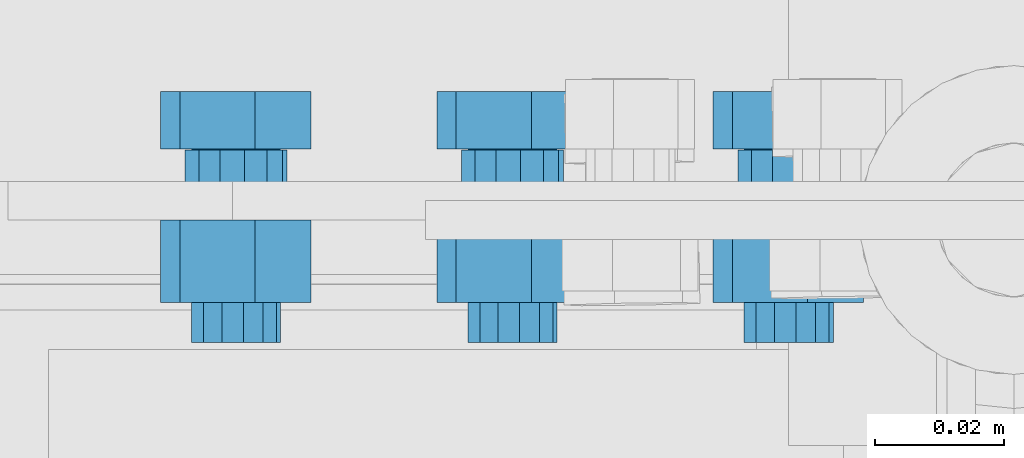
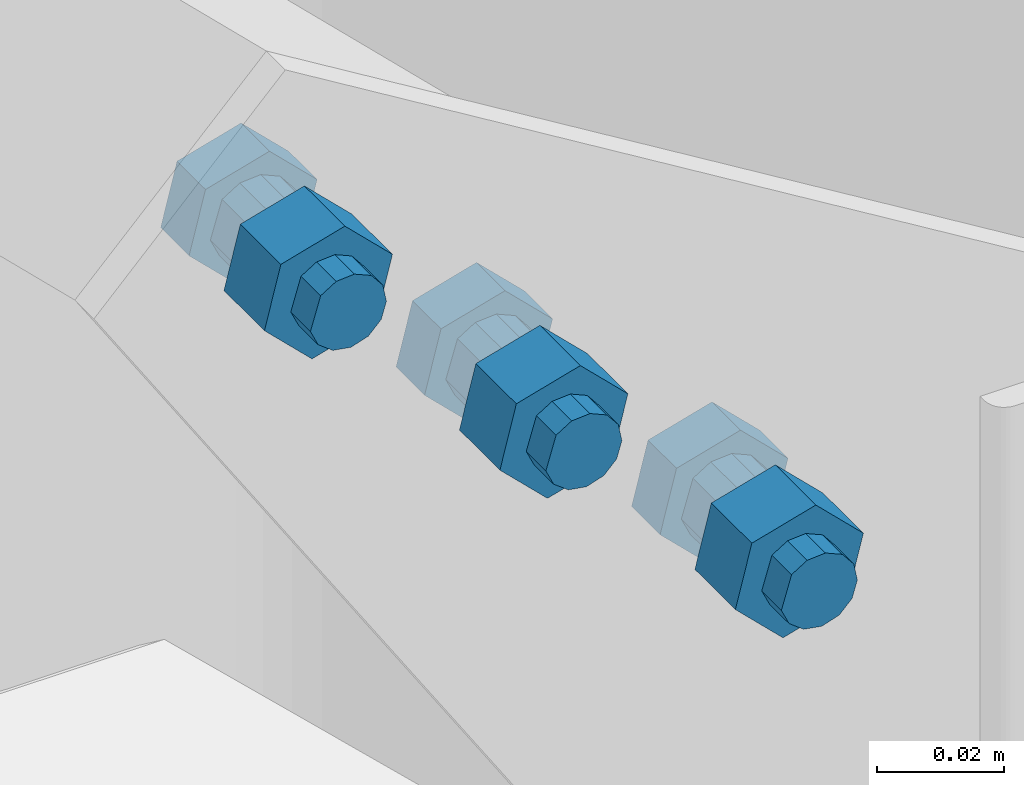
# One storey, part 14 of 18: 1 mechanical fastener.
"""IFC2X3 building model written with IfcOpenShell, lengths in millimetres."""

from ifc_helpers import new_model, si_unit, frame, origin_with_axes, place, context, subcontext, project, spatial, faceted_brep, source, transform, mapped, type_object, element, save


model = new_model("IFC2X3")

# Units and contexts
model_context = context("Model", 3, precision=1e-05, world=origin_with_axes())
body_context = subcontext(model_context, "Body", "Model", "MODEL_VIEW")
ifc_project = project(units=[si_unit("LENGTHUNIT", "METRE", prefix="MILLI"), si_unit("AREAUNIT", "SQUARE_METRE"), si_unit("VOLUMEUNIT", "CUBIC_METRE"), si_unit("MASSUNIT", "GRAM", prefix="KILO"), si_unit("TIMEUNIT", "SECOND"), si_unit("PLANEANGLEUNIT", "RADIAN"), si_unit("SOLIDANGLEUNIT", "STERADIAN"), si_unit("THERMODYNAMICTEMPERATUREUNIT", "DEGREE_CELSIUS"), si_unit("LUMINOUSINTENSITYUNIT", "LUMEN")], contexts=[model_context])

# Site, building, storey
site_placement = place(None, origin_with_axes())
site = spatial("IfcSite", under=ifc_project, at=site_placement, Name="Undefined", CompositionType="ELEMENT")
building_placement = place(site_placement, origin_with_axes())
building = spatial("IfcBuilding", under=site, at=building_placement, Name="Undefined", CompositionType="ELEMENT")
storey_placement = place(building_placement, origin_with_axes())
storey = spatial("IfcBuildingStorey", under=building, at=storey_placement, Name="Undefined", CompositionType="ELEMENT", Elevation=0.0)

# Mechanical fastener
mechanical_fastener_type = type_object("IfcMechanicalFastenerType", Name="Bolt assembly")
shared_shape_1 = source(origin_with_axes(), body_context, "Body", "Brep", [
    faceted_brep([(12.12435565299, 10.9970413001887, 0.0), (6.062177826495, 10.9970413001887, 10.5000000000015), (-6.062177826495, 10.9970413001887, 10.5000000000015), (-12.12435565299, 10.9970413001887, 0.0), (-6.062177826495, 10.9970413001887, -10.5000000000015), (6.062177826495, 10.9970413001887, -10.5000000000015), (6.062177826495, 19.9970413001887, -10.5000000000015), (-6.062177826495, 19.9970413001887, -10.5000000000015), (-12.12435565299, 19.9970413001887, 0.0), (-6.062177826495, 19.9970413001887, 10.5000000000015), (6.062177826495, 19.9970413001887, 10.5000000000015), (12.12435565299, 19.9970413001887, 0.0), (7.0, 19.9970413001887, 0.0), (6.19819217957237, 19.9970413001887, 3.25306220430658), (3.97645322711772, 19.9970413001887, 5.76088706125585), (0.843756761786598, 19.9970413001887, 6.94896211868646), (-2.48223420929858, 19.9970413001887, 6.54511369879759), (-5.23957523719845, 19.9970413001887, 4.64185860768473), (-6.79659272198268, 19.9970413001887, 1.67520965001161), (-6.79659272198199, 19.9970413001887, -1.67520965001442), (-5.23957523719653, 19.9970413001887, -4.6418586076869), (-2.48223420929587, 19.9970413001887, -6.54511369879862), (0.843756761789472, 19.9970413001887, -6.94896211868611), (3.97645322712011, 19.9970413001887, -5.7608870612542), (3.97645322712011, 49.9970413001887, -5.7608870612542), (0.843756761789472, 49.9970413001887, -6.94896211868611), (-2.48223420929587, 49.9970413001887, -6.54511369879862), (-5.23957523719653, 49.9970413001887, -4.6418586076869), (-6.79659272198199, 49.9970413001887, -1.67520965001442), (-6.79659272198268, 49.9970413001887, 1.67520965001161), (-5.23957523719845, 49.9970413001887, 4.64185860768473), (-2.48223420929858, 49.9970413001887, 6.54511369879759), (0.843756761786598, 49.9970413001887, 6.94896211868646), (3.97645322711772, 49.9970413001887, 5.76088706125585), (6.19819217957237, 49.9970413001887, 3.25306220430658), (7.0, 49.9970413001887, 0.0), (12.12435565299, 30.9974803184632, 0.0), (6.062177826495, 30.9974803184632, 10.5000000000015), (-6.062177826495, 30.9974803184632, 10.5000000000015), (-12.12435565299, 30.9974803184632, 0.0), (-6.062177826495, 30.9974803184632, -10.5000000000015), (6.062177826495, 30.9974803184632, -10.5000000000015), (6.062177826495, 43.797480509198, -10.5000000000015), (-6.062177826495, 43.797480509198, -10.5000000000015), (-12.12435565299, 43.797480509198, 0.0), (-6.062177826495, 43.797480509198, 10.5000000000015), (6.062177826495, 43.797480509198, 10.5000000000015), (12.12435565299, 43.797480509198, 0.0)], [[[0, 1, 2, 3, 4, 5]], [[6, 7, 8, 9, 10, 11]], [[0, 11, 10, 1]], [[1, 10, 9, 2]], [[2, 9, 8, 3]], [[3, 8, 7, 4]], [[4, 7, 6, 5]], [[5, 6, 11, 0]], [[12, 13, 14, 15, 16, 17, 18, 19, 20, 21, 22, 23]], [[24, 25, 26, 27, 28, 29, 30, 31, 32, 33, 34, 35]], [[12, 35, 34, 13]], [[13, 34, 33, 14]], [[14, 33, 32, 15]], [[15, 32, 31, 16]], [[16, 31, 30, 17]], [[17, 30, 29, 18]], [[18, 29, 28, 19]], [[19, 28, 27, 20]], [[20, 27, 26, 21]], [[21, 26, 25, 22]], [[22, 25, 24, 23]], [[23, 24, 35, 12]], [[36, 37, 38, 39, 40, 41]], [[42, 43, 44, 45, 46, 47]], [[36, 47, 46, 37]], [[37, 46, 45, 38]], [[38, 45, 44, 39]], [[39, 44, 43, 40]], [[40, 43, 42, 41]], [[41, 42, 47, 36]]]),
    faceted_brep([(8.0, 24.897480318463, 0.0), (7.08364820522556, 24.897480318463, 3.71778537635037), (4.54451797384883, 24.897480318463, 6.58387092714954), (0.964293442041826, 24.897480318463, 7.94167099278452), (-2.83683909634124, 24.897480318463, 7.48012994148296), (-5.98808598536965, 24.897480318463, 5.30498126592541), (-7.76753453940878, 24.897480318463, 1.91452531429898), (-7.76753453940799, 24.897480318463, -1.91452531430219), (-5.98808598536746, 24.897480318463, -5.30498126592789), (-2.83683909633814, 24.897480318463, -7.48012994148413), (0.964293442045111, 24.897480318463, -7.94167099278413), (4.54451797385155, 24.897480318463, -6.58387092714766), (4.54451797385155, 30.9974854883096, -6.58387092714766), (0.964293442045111, 30.9974854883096, -7.94167099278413), (-2.83683909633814, 30.9974854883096, -7.48012994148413), (-5.98808598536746, 30.9974854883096, -5.30498126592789), (-7.76753453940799, 30.9974854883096, -1.91452531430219), (-7.76753453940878, 30.9974854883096, 1.91452531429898), (-5.98808598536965, 30.9974854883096, 5.30498126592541), (-2.83683909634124, 30.9974854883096, 7.48012994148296), (0.964293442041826, 30.9974854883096, 7.94167099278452), (4.54451797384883, 30.9974854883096, 6.58387092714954), (7.08364820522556, 30.9974854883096, 3.71778537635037), (8.0, 30.9974854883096, 0.0), (8.0, 20.0970413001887, 0.0), (7.08364820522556, 20.0970413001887, 3.71778537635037), (4.54451797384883, 20.0970413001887, 6.58387092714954), (0.964293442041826, 20.0970413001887, 7.94167099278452), (-2.83683909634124, 20.0970413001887, 7.48012994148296), (-5.98808598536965, 20.0970413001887, 5.30498126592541), (-7.76753453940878, 20.0970413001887, 1.91452531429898), (-7.76753453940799, 20.0970413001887, -1.91452531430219), (-5.98808598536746, 20.0970413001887, -5.30498126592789), (-2.83683909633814, 20.0970413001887, -7.48012994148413), (0.964293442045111, 20.0970413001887, -7.94167099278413), (4.54451797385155, 20.0970413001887, -6.58387092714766), (4.54451797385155, 25.0970413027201, -6.58387092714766), (0.964293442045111, 25.0970413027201, -7.94167099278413), (-2.83683909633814, 25.0970413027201, -7.48012994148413), (-5.98808598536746, 25.0970413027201, -5.30498126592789), (-7.76753453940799, 25.0970413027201, -1.91452531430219), (-7.76753453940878, 25.0970413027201, 1.91452531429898), (-5.98808598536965, 25.0970413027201, 5.30498126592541), (-2.83683909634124, 25.0970413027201, 7.48012994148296), (0.964293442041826, 25.0970413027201, 7.94167099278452), (4.54451797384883, 25.0970413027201, 6.58387092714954), (7.08364820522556, 25.0970413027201, 3.71778537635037), (8.0, 25.0970413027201, 0.0)], [[[0, 1, 2, 3, 4, 5, 6, 7, 8, 9, 10, 11]], [[12, 13, 14, 15, 16, 17, 18, 19, 20, 21, 22, 23]], [[0, 23, 22, 1]], [[1, 22, 21, 2]], [[2, 21, 20, 3]], [[3, 20, 19, 4]], [[4, 19, 18, 5]], [[5, 18, 17, 6]], [[6, 17, 16, 7]], [[7, 16, 15, 8]], [[8, 15, 14, 9]], [[9, 14, 13, 10]], [[10, 13, 12, 11]], [[11, 12, 23, 0]], [[24, 25, 26, 27, 28, 29, 30, 31, 32, 33, 34, 35]], [[36, 37, 38, 39, 40, 41, 42, 43, 44, 45, 46, 47]], [[24, 47, 46, 25]], [[25, 46, 45, 26]], [[26, 45, 44, 27]], [[27, 44, 43, 28]], [[28, 43, 42, 29]], [[29, 42, 41, 30]], [[30, 41, 40, 31]], [[31, 40, 39, 32]], [[32, 39, 38, 33]], [[33, 38, 37, 34]], [[34, 37, 36, 35]], [[35, 36, 47, 24]]]),
])
shared_shape_2 = source(origin_with_axes(), body_context, "Body", "Brep", [
    faceted_brep([(12.12435565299, 10.9970413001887, 0.0), (6.062177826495, 10.9970413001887, 10.5000000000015), (-6.062177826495, 10.9970413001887, 10.5000000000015), (-12.12435565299, 10.9970413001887, 0.0), (-6.062177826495, 10.9970413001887, -10.5000000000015), (6.062177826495, 10.9970413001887, -10.5000000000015), (6.062177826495, 19.9970413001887, -10.5000000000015), (-6.062177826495, 19.9970413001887, -10.5000000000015), (-12.12435565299, 19.9970413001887, 0.0), (-6.062177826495, 19.9970413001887, 10.5000000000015), (6.062177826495, 19.9970413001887, 10.5000000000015), (12.12435565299, 19.9970413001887, 0.0), (7.0, 19.9970413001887, 0.0), (6.19819217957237, 19.9970413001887, 3.25306220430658), (3.97645322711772, 19.9970413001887, 5.76088706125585), (0.843756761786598, 19.9970413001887, 6.94896211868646), (-2.48223420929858, 19.9970413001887, 6.54511369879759), (-5.23957523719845, 19.9970413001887, 4.64185860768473), (-6.79659272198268, 19.9970413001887, 1.67520965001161), (-6.79659272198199, 19.9970413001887, -1.67520965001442), (-5.23957523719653, 19.9970413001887, -4.6418586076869), (-2.48223420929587, 19.9970413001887, -6.54511369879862), (0.843756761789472, 19.9970413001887, -6.94896211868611), (3.97645322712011, 19.9970413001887, -5.7608870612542), (3.97645322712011, 49.9970413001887, -5.7608870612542), (0.843756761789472, 49.9970413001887, -6.94896211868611), (-2.48223420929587, 49.9970413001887, -6.54511369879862), (-5.23957523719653, 49.9970413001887, -4.6418586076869), (-6.79659272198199, 49.9970413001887, -1.67520965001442), (-6.79659272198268, 49.9970413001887, 1.67520965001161), (-5.23957523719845, 49.9970413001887, 4.64185860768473), (-2.48223420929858, 49.9970413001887, 6.54511369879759), (0.843756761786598, 49.9970413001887, 6.94896211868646), (3.97645322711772, 49.9970413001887, 5.76088706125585), (6.19819217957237, 49.9970413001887, 3.25306220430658), (7.0, 49.9970413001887, 0.0), (12.12435565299, 30.9974803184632, 0.0), (6.062177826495, 30.9974803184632, 10.5000000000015), (-6.062177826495, 30.9974803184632, 10.5000000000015), (-12.12435565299, 30.9974803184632, 0.0), (-6.062177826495, 30.9974803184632, -10.5000000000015), (6.062177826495, 30.9974803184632, -10.5000000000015), (6.062177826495, 43.797480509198, -10.5000000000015), (-6.062177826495, 43.797480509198, -10.5000000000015), (-12.12435565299, 43.797480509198, 0.0), (-6.062177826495, 43.797480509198, 10.5000000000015), (6.062177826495, 43.797480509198, 10.5000000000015), (12.12435565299, 43.797480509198, 0.0)], [[[0, 1, 2, 3, 4, 5]], [[6, 7, 8, 9, 10, 11]], [[0, 11, 10, 1]], [[1, 10, 9, 2]], [[2, 9, 8, 3]], [[3, 8, 7, 4]], [[4, 7, 6, 5]], [[5, 6, 11, 0]], [[12, 13, 14, 15, 16, 17, 18, 19, 20, 21, 22, 23]], [[24, 25, 26, 27, 28, 29, 30, 31, 32, 33, 34, 35]], [[12, 35, 34, 13]], [[13, 34, 33, 14]], [[14, 33, 32, 15]], [[15, 32, 31, 16]], [[16, 31, 30, 17]], [[17, 30, 29, 18]], [[18, 29, 28, 19]], [[19, 28, 27, 20]], [[20, 27, 26, 21]], [[21, 26, 25, 22]], [[22, 25, 24, 23]], [[23, 24, 35, 12]], [[36, 37, 38, 39, 40, 41]], [[42, 43, 44, 45, 46, 47]], [[36, 47, 46, 37]], [[37, 46, 45, 38]], [[38, 45, 44, 39]], [[39, 44, 43, 40]], [[40, 43, 42, 41]], [[41, 42, 47, 36]]]),
    faceted_brep([(8.0, 24.897480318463, 0.0), (7.08364820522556, 24.897480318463, 3.71778537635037), (4.54451797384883, 24.897480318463, 6.58387092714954), (0.964293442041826, 24.897480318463, 7.94167099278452), (-2.83683909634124, 24.897480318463, 7.48012994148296), (-5.98808598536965, 24.897480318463, 5.30498126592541), (-7.76753453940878, 24.897480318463, 1.91452531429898), (-7.76753453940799, 24.897480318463, -1.91452531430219), (-5.98808598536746, 24.897480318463, -5.30498126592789), (-2.83683909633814, 24.897480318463, -7.48012994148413), (0.964293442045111, 24.897480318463, -7.94167099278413), (4.54451797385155, 24.897480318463, -6.58387092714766), (4.54451797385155, 30.9974854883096, -6.58387092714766), (0.964293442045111, 30.9974854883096, -7.94167099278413), (-2.83683909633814, 30.9974854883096, -7.48012994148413), (-5.98808598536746, 30.9974854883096, -5.30498126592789), (-7.76753453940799, 30.9974854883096, -1.91452531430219), (-7.76753453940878, 30.9974854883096, 1.91452531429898), (-5.98808598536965, 30.9974854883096, 5.30498126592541), (-2.83683909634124, 30.9974854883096, 7.48012994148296), (0.964293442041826, 30.9974854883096, 7.94167099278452), (4.54451797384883, 30.9974854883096, 6.58387092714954), (7.08364820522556, 30.9974854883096, 3.71778537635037), (8.0, 30.9974854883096, 0.0), (8.0, 20.0970413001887, 0.0), (7.08364820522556, 20.0970413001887, 3.71778537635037), (4.54451797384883, 20.0970413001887, 6.58387092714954), (0.964293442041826, 20.0970413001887, 7.94167099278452), (-2.83683909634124, 20.0970413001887, 7.48012994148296), (-5.98808598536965, 20.0970413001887, 5.30498126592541), (-7.76753453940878, 20.0970413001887, 1.91452531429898), (-7.76753453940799, 20.0970413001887, -1.91452531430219), (-5.98808598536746, 20.0970413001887, -5.30498126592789), (-2.83683909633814, 20.0970413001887, -7.48012994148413), (0.964293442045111, 20.0970413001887, -7.94167099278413), (4.54451797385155, 20.0970413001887, -6.58387092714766), (4.54451797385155, 25.0970413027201, -6.58387092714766), (0.964293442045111, 25.0970413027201, -7.94167099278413), (-2.83683909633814, 25.0970413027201, -7.48012994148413), (-5.98808598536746, 25.0970413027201, -5.30498126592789), (-7.76753453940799, 25.0970413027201, -1.91452531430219), (-7.76753453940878, 25.0970413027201, 1.91452531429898), (-5.98808598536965, 25.0970413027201, 5.30498126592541), (-2.83683909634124, 25.0970413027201, 7.48012994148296), (0.964293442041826, 25.0970413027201, 7.94167099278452), (4.54451797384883, 25.0970413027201, 6.58387092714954), (7.08364820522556, 25.0970413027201, 3.71778537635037), (8.0, 25.0970413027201, 0.0)], [[[0, 1, 2, 3, 4, 5, 6, 7, 8, 9, 10, 11]], [[12, 13, 14, 15, 16, 17, 18, 19, 20, 21, 22, 23]], [[0, 23, 22, 1]], [[1, 22, 21, 2]], [[2, 21, 20, 3]], [[3, 20, 19, 4]], [[4, 19, 18, 5]], [[5, 18, 17, 6]], [[6, 17, 16, 7]], [[7, 16, 15, 8]], [[8, 15, 14, 9]], [[9, 14, 13, 10]], [[10, 13, 12, 11]], [[11, 12, 23, 0]], [[24, 25, 26, 27, 28, 29, 30, 31, 32, 33, 34, 35]], [[36, 37, 38, 39, 40, 41, 42, 43, 44, 45, 46, 47]], [[24, 47, 46, 25]], [[25, 46, 45, 26]], [[26, 45, 44, 27]], [[27, 44, 43, 28]], [[28, 43, 42, 29]], [[29, 42, 41, 30]], [[30, 41, 40, 31]], [[31, 40, 39, 32]], [[32, 39, 38, 33]], [[33, 38, 37, 34]], [[34, 37, 36, 35]], [[35, 36, 47, 24]]]),
])
shared_shape_3 = source(origin_with_axes(), body_context, "Body", "Brep", [
    faceted_brep([(12.12435565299, 10.9970413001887, 0.0), (6.062177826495, 10.9970413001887, 10.5000000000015), (-6.062177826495, 10.9970413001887, 10.5000000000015), (-12.12435565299, 10.9970413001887, 0.0), (-6.062177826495, 10.9970413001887, -10.5000000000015), (6.062177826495, 10.9970413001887, -10.5000000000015), (6.062177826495, 19.9970413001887, -10.5000000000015), (-6.062177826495, 19.9970413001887, -10.5000000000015), (-12.12435565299, 19.9970413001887, 0.0), (-6.062177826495, 19.9970413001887, 10.5000000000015), (6.062177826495, 19.9970413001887, 10.5000000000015), (12.12435565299, 19.9970413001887, 0.0), (7.0, 19.9970413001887, 0.0), (6.19819217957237, 19.9970413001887, 3.25306220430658), (3.97645322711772, 19.9970413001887, 5.76088706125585), (0.843756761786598, 19.9970413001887, 6.94896211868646), (-2.48223420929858, 19.9970413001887, 6.54511369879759), (-5.23957523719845, 19.9970413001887, 4.64185860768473), (-6.79659272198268, 19.9970413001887, 1.67520965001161), (-6.79659272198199, 19.9970413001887, -1.67520965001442), (-5.23957523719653, 19.9970413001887, -4.6418586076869), (-2.48223420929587, 19.9970413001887, -6.54511369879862), (0.843756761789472, 19.9970413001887, -6.94896211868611), (3.97645322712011, 19.9970413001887, -5.7608870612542), (3.97645322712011, 49.9970413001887, -5.7608870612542), (0.843756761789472, 49.9970413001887, -6.94896211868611), (-2.48223420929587, 49.9970413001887, -6.54511369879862), (-5.23957523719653, 49.9970413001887, -4.6418586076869), (-6.79659272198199, 49.9970413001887, -1.67520965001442), (-6.79659272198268, 49.9970413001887, 1.67520965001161), (-5.23957523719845, 49.9970413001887, 4.64185860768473), (-2.48223420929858, 49.9970413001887, 6.54511369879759), (0.843756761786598, 49.9970413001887, 6.94896211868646), (3.97645322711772, 49.9970413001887, 5.76088706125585), (6.19819217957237, 49.9970413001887, 3.25306220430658), (7.0, 49.9970413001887, 0.0), (12.12435565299, 30.9974803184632, 0.0), (6.062177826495, 30.9974803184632, 10.5000000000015), (-6.062177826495, 30.9974803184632, 10.5000000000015), (-12.12435565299, 30.9974803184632, 0.0), (-6.062177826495, 30.9974803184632, -10.5000000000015), (6.062177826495, 30.9974803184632, -10.5000000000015), (6.062177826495, 43.797480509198, -10.5000000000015), (-6.062177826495, 43.797480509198, -10.5000000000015), (-12.12435565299, 43.797480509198, 0.0), (-6.062177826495, 43.797480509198, 10.5000000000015), (6.062177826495, 43.797480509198, 10.5000000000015), (12.12435565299, 43.797480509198, 0.0)], [[[0, 1, 2, 3, 4, 5]], [[6, 7, 8, 9, 10, 11]], [[0, 11, 10, 1]], [[1, 10, 9, 2]], [[2, 9, 8, 3]], [[3, 8, 7, 4]], [[4, 7, 6, 5]], [[5, 6, 11, 0]], [[12, 13, 14, 15, 16, 17, 18, 19, 20, 21, 22, 23]], [[24, 25, 26, 27, 28, 29, 30, 31, 32, 33, 34, 35]], [[12, 35, 34, 13]], [[13, 34, 33, 14]], [[14, 33, 32, 15]], [[15, 32, 31, 16]], [[16, 31, 30, 17]], [[17, 30, 29, 18]], [[18, 29, 28, 19]], [[19, 28, 27, 20]], [[20, 27, 26, 21]], [[21, 26, 25, 22]], [[22, 25, 24, 23]], [[23, 24, 35, 12]], [[36, 37, 38, 39, 40, 41]], [[42, 43, 44, 45, 46, 47]], [[36, 47, 46, 37]], [[37, 46, 45, 38]], [[38, 45, 44, 39]], [[39, 44, 43, 40]], [[40, 43, 42, 41]], [[41, 42, 47, 36]]]),
    faceted_brep([(8.0, 24.897480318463, 0.0), (7.08364820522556, 24.897480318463, 3.71778537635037), (4.54451797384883, 24.897480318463, 6.58387092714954), (0.964293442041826, 24.897480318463, 7.94167099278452), (-2.83683909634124, 24.897480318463, 7.48012994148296), (-5.98808598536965, 24.897480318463, 5.30498126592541), (-7.76753453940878, 24.897480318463, 1.91452531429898), (-7.76753453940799, 24.897480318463, -1.91452531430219), (-5.98808598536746, 24.897480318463, -5.30498126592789), (-2.83683909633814, 24.897480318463, -7.48012994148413), (0.964293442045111, 24.897480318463, -7.94167099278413), (4.54451797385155, 24.897480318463, -6.58387092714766), (4.54451797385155, 30.9974854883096, -6.58387092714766), (0.964293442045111, 30.9974854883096, -7.94167099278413), (-2.83683909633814, 30.9974854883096, -7.48012994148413), (-5.98808598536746, 30.9974854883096, -5.30498126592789), (-7.76753453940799, 30.9974854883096, -1.91452531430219), (-7.76753453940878, 30.9974854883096, 1.91452531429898), (-5.98808598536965, 30.9974854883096, 5.30498126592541), (-2.83683909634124, 30.9974854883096, 7.48012994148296), (0.964293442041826, 30.9974854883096, 7.94167099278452), (4.54451797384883, 30.9974854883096, 6.58387092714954), (7.08364820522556, 30.9974854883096, 3.71778537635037), (8.0, 30.9974854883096, 0.0), (8.0, 20.0970413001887, 0.0), (7.08364820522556, 20.0970413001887, 3.71778537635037), (4.54451797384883, 20.0970413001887, 6.58387092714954), (0.964293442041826, 20.0970413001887, 7.94167099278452), (-2.83683909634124, 20.0970413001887, 7.48012994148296), (-5.98808598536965, 20.0970413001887, 5.30498126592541), (-7.76753453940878, 20.0970413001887, 1.91452531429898), (-7.76753453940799, 20.0970413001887, -1.91452531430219), (-5.98808598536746, 20.0970413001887, -5.30498126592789), (-2.83683909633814, 20.0970413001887, -7.48012994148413), (0.964293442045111, 20.0970413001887, -7.94167099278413), (4.54451797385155, 20.0970413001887, -6.58387092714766), (4.54451797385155, 25.0970413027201, -6.58387092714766), (0.964293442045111, 25.0970413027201, -7.94167099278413), (-2.83683909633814, 25.0970413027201, -7.48012994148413), (-5.98808598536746, 25.0970413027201, -5.30498126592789), (-7.76753453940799, 25.0970413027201, -1.91452531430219), (-7.76753453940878, 25.0970413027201, 1.91452531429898), (-5.98808598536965, 25.0970413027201, 5.30498126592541), (-2.83683909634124, 25.0970413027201, 7.48012994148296), (0.964293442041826, 25.0970413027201, 7.94167099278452), (4.54451797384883, 25.0970413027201, 6.58387092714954), (7.08364820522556, 25.0970413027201, 3.71778537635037), (8.0, 25.0970413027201, 0.0)], [[[0, 1, 2, 3, 4, 5, 6, 7, 8, 9, 10, 11]], [[12, 13, 14, 15, 16, 17, 18, 19, 20, 21, 22, 23]], [[0, 23, 22, 1]], [[1, 22, 21, 2]], [[2, 21, 20, 3]], [[3, 20, 19, 4]], [[4, 19, 18, 5]], [[5, 18, 17, 6]], [[6, 17, 16, 7]], [[7, 16, 15, 8]], [[8, 15, 14, 9]], [[9, 14, 13, 10]], [[10, 13, 12, 11]], [[11, 12, 23, 0]], [[24, 25, 26, 27, 28, 29, 30, 31, 32, 33, 34, 35]], [[36, 37, 38, 39, 40, 41, 42, 43, 44, 45, 46, 47]], [[24, 47, 46, 25]], [[25, 46, 45, 26]], [[26, 45, 44, 27]], [[27, 44, 43, 28]], [[28, 43, 42, 29]], [[29, 42, 41, 30]], [[30, 41, 40, 31]], [[31, 40, 39, 32]], [[32, 39, 38, 33]], [[33, 38, 37, 34]], [[34, 37, 36, 35]], [[35, 36, 47, 24]]]),
])
mechanical_fastener_placement = place(storey_placement, frame((-95.0541839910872, -44.0029578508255, 108.718029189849), z_axis=(0.69852816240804, -2.28000013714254e-05, 0.715582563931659), x_axis=(-0.715582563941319, -2.22000014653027e-05, 0.69852816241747)))
element("IfcMechanicalFastener", 1, at=mechanical_fastener_placement, inside=storey, type_object=mechanical_fastener_type, Name="Bolt assembly", NominalDiameter=14.0, NominalLength=30.0, context=body_context, shape_type="MappedRepresentation", body=[
    mapped(shared_shape_1, transform((0.0, 0.0, 0.0))),
    mapped(shared_shape_2, transform((60.0, 0.0, 0.0))),
    mapped(shared_shape_3, transform((120.0, 0.0, 0.0))),
])

save(model, "model.ifc")
